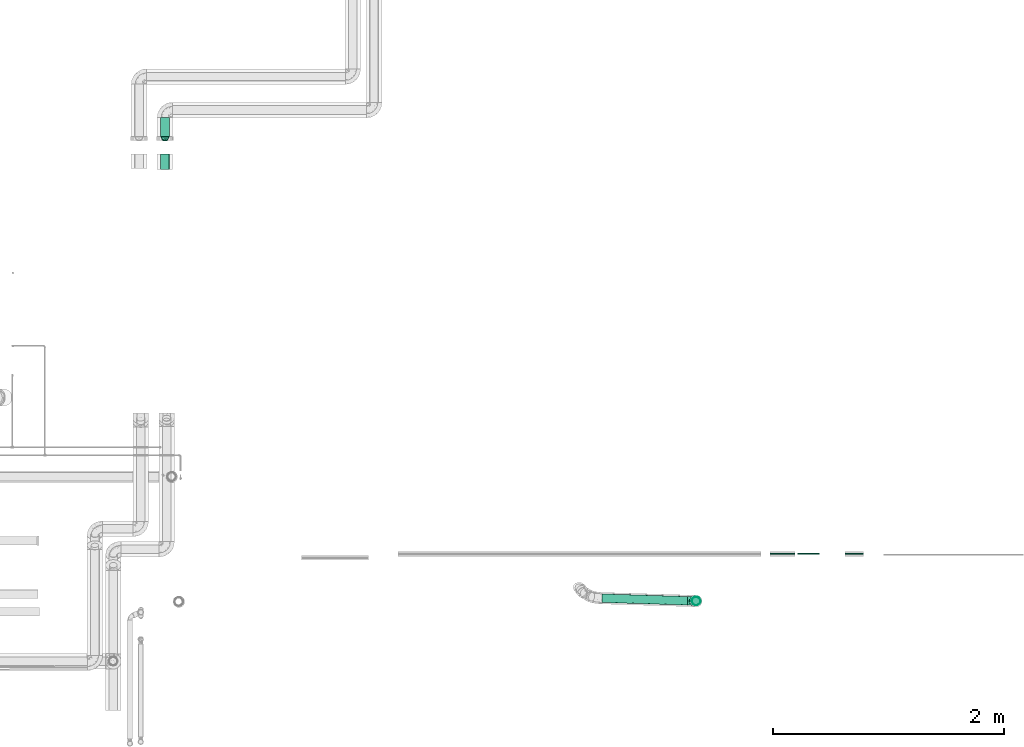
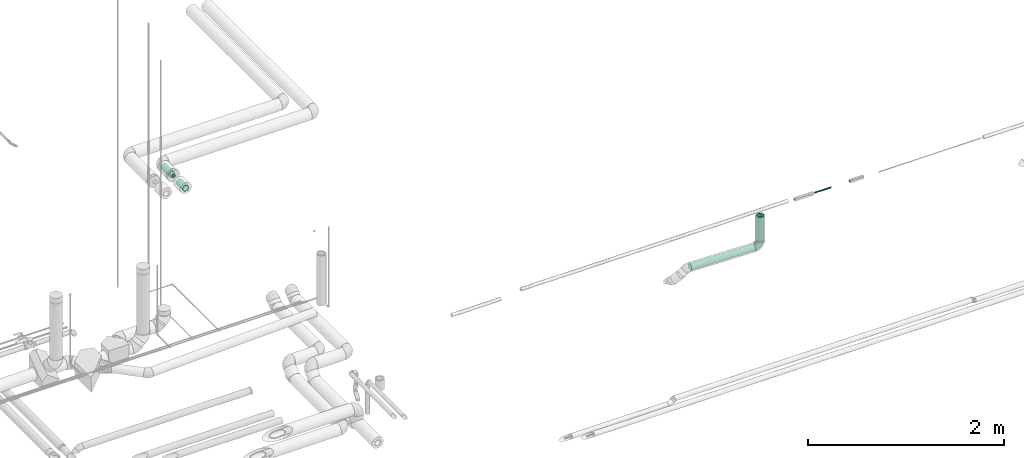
# One storey, part 71 of 156: 7 flow segments, 2 flow fittings.
"""IFC2X3 building model written with IfcOpenShell, lengths in millimetres."""

from ifc_helpers import new_model, entity, si_unit, converted_unit, derived_unit, direction, frame, origin_with_axes, origin_2d_with_axis, place, context, subcontext, project, spatial, hollow_circle, extrude, open_shell, surface_model, source, transform, mapped, type_object, element, save


model = new_model("IFC2X3")

# Units and contexts
model_context = context("Model", 3, precision=0.01, world=frame((0.0, 4.29681676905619e-09, 0.0)), true_north=direction((4.01073788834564e-13, 1.0)))
plan_context = context("Plan", 3, precision=0.01, world=frame((0.0, 4.29681676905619e-09, 0.0)), true_north=direction((4.01073788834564e-13, 1.0)))
body_context = subcontext(model_context, "Body", "Model", "MODEL_VIEW")
ifc_project = project(units=[converted_unit("PLANEANGLEUNIT", "DEGREE", entity("IfcPositiveLengthMeasure", 0.0174532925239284), si_unit("PLANEANGLEUNIT", "RADIAN"), dimensions=[0, 0, 0, 0, 0, 0, 0]), si_unit("AREAUNIT", "SQUARE_METRE"), si_unit("LENGTHUNIT", "METRE", prefix="MILLI"), si_unit("MASSUNIT", "GRAM", prefix="KILO"), si_unit("POWERUNIT", "WATT"), si_unit("PRESSUREUNIT", "PASCAL", prefix="KILO"), si_unit("FORCEUNIT", "NEWTON", prefix="KILO"), si_unit("ELECTRICVOLTAGEUNIT", "VOLT"), si_unit("ELECTRICCURRENTUNIT", "AMPERE"), si_unit("THERMODYNAMICTEMPERATUREUNIT", "DEGREE_CELSIUS"), si_unit("TIMEUNIT", "SECOND"), si_unit("VOLUMEUNIT", "CUBIC_METRE"), derived_unit("LINEARVELOCITYUNIT", [(si_unit("LENGTHUNIT", "METRE"), 1), (si_unit("TIMEUNIT", "SECOND"), -1)]), derived_unit("VOLUMETRICFLOWRATEUNIT", [(si_unit("VOLUMEUNIT", "CUBIC_METRE"), 1), (si_unit("TIMEUNIT", "SECOND"), -1)]), derived_unit("THERMALTRANSMITTANCEUNIT", [(si_unit("POWERUNIT", "WATT"), 1), (si_unit("THERMODYNAMICTEMPERATUREUNIT", "KELVIN"), -1), (si_unit("AREAUNIT", "SQUARE_METRE"), -1)]), derived_unit("SOUNDPRESSUREUNIT", [(si_unit("PRESSUREUNIT", "PASCAL"), 1)])], contexts=[model_context, plan_context])

# Site, building, storey
site_placement = place(None, frame((0.0, -4.29681676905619e-09, 0.0), z_axis=(0.0, 0.0, 1.0), x_axis=(1.0, 0.0, 0.0)))
site = spatial("IfcSite", under=ifc_project, at=site_placement, CompositionType="ELEMENT")
building_placement = place(site_placement, frame((0.0, 4.29681676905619e-09, 0.0), z_axis=(0.0, 0.0, 1.0), x_axis=(1.0, 0.0, 0.0)))
building = spatial("IfcBuilding", under=site, at=building_placement, Name="mc-building", CompositionType="ELEMENT")
storey_placement = place(building_placement, frame((0.0, 0.0, 205200.0), z_axis=(0.0, 0.0, 1.0), x_axis=(1.0, 0.0, 0.0)))
storey = spatial("IfcBuildingStorey", under=building, at=storey_placement, Name="Nivå D + 1,2 m", CompositionType="ELEMENT", Elevation=205200.0)

# Flow fittings
pipe_fitting_type_1 = type_object("IfcPipeFittingType", Name="magi_pipe_elbow_short_001", PredefinedType="BEND")
shared_shape_1 = source(origin_with_axes(), body_context, "Body", "SurfaceModel", [
    surface_model("IfcShellBasedSurfaceModel", [(-75.0, 18.75, -32.47595), (-75.0, 9.70571, -36.22222), (-75.0, 0.0, -37.5), (-75.0, 26.5165, -26.5165), (-75.0, 36.22222, -9.70571), (-75.0, 32.47595, -18.75), (-75.0, -26.5165, -26.5165), (-75.0, -32.47595, -18.75), (-75.0, -18.75, -32.47595), (-75.0, -9.70571, -36.22222), (-75.0, -36.22222, -9.70571), (-75.0, -37.5, 0.0), (-75.0, -36.22222, 9.70571), (-75.0, 32.47595, 18.75), (-75.0, 36.22222, 9.70571), (-75.0, 26.5165, 26.5165), (-75.0, 9.70571, 36.22222), (-75.0, 18.75, 32.47595), (-75.0, -32.47595, 18.75), (-75.0, -26.5165, 26.5165), (-75.0, -18.75, 32.47595), (-75.0, -9.70571, 36.22222), (-75.0, 0.0, 37.5), (-75.0, 37.5, 0.0), (0.0, 75.0, -37.5), (-9.70571, 75.0, -36.22222), (-18.75, 75.0, -32.47595), (-26.5165, 75.0, -26.5165), (-37.5, 75.0, 0.0), (-32.47595, 75.0, -18.75), (26.5165, 75.0, -26.5165), (32.47595, 75.0, -18.75), (9.70571, 75.0, -36.22222), (18.75, 75.0, -32.47595), (37.5, 75.0, 0.0), (36.22222, 75.0, -9.70571), (36.22222, 75.0, 9.70571), (-36.22222, 75.0, -9.70571), (-36.22222, 75.0, 9.70571), (-26.5165, 75.0, 26.5165), (-32.47595, 75.0, 18.75), (-18.75, 75.0, 32.47595), (-9.70571, 75.0, 36.22222), (26.5165, 75.0, 26.5165), (32.47595, 75.0, 18.75), (18.75, 75.0, 32.47595), (0.0, 75.0, 37.5), (9.70571, 75.0, 36.22222), (-50.66195, -32.88873, 11.78572), (-54.99922, -29.13125, 21.04995), (-40.23559, -31.99386, 0.0), (-56.55691, -34.5789, 0.0), (-9.60325, -12.95098, 14.46051), (-2.61009, -10.01741, 7.88638), (2.16617, -2.16616, 15.53807), (-57.288, -4.96773, 36.85866), (-52.51217, 5.74824, 37.43608), (12.81037, 9.15765, 14.08651), (22.89928, 30.51548, 18.6525), (8.7824, 13.60594, 23.93416), (-37.33476, -0.33653, 36.347), (-54.85586, -14.14869, 33.72555), (-29.12471, -8.85823, 31.34411), (-48.10461, -21.423, 27.85772), (-33.59975, -28.74209, 7.71494), (-24.55487, -24.00414, 0.0), (-13.60594, -8.7824, 23.93416), (-6.69857, 6.69857, 30.65943), (-36.65649, 59.85204, 16.29881), (-31.32632, 58.38324, 24.63625), (-13.99807, 64.68502, 35.12545), (-5.13953, 56.09471, 37.40789), (-57.80652, 14.70733, 35.42412), (-9.78855, 25.11652, 36.82116), (-18.63299, 6.87945, 35.01744), (-3.83097, 20.26022, 34.46205), (-64.87994, 22.70936, 30.5559), (-13.033, 36.87746, 37.43272), (-27.77679, 27.77679, 36.58883), (-22.32941, 16.38719, 37.30683), (-59.28624, 39.94303, 8.24496), (-59.87067, 36.65042, 16.29631), (-46.56121, 46.56121, 14.01781), (-58.62128, 31.26084, 24.61005), (21.423, 48.10461, 27.85772), (-38.8913, 49.70952, 21.22461), (14.14869, 54.85586, 33.72555), (29.13125, 54.99922, 21.04995), (32.88873, 50.66195, 11.78572), (-8.87416, -16.01441, 0.0), (-18.2094, -20.62738, 9.716), (4.96773, 57.288, 36.85866), (-41.2078, 16.06301, 36.82891), (-36.79737, 9.18911, 37.484), (24.00414, 24.55487, 0.0), (28.74209, 33.59975, 7.71494), (20.62738, 18.2094, 9.716), (34.5789, 56.5569, 0.0), (-39.86686, 25.44473, 34.6853), (-30.51548, -22.89929, 18.6525), (-27.18733, 48.46895, 31.51768), (-22.90983, 62.88141, 30.71147), (-39.47351, 60.49606, 8.04494), (-46.99814, 49.18552, 6.59975), (17.2765, 30.20783, 25.41576), (8.85823, 29.12471, 31.34411), (-42.52405, 56.25, 0.0), (-34.71543, 39.60057, 30.81378), (-51.63921, 25.45565, 31.57887), (-0.57315, 0.57314, 22.15528), (-21.39907, 38.81887, 36.04898), (-29.87575, 36.30561, 34.12075), (-16.21806, 50.81342, 35.71351), (-39.52887, 41.87958, 26.56295), (-48.16312, 40.29427, 20.91087), (0.33653, 37.33476, 36.347), (-30.0679, -16.43719, 26.14736), (10.22617, 2.72351, 7.47716), (31.99386, 40.23559, 0.0), (16.01441, 8.87416, 0.0), (-56.25, 42.52405, 0.0), (3.57013, -3.57013, 0.0), (-55.29924, 32.29556, -24.97819), (-59.83636, 36.66159, -16.30091), (-30.63566, -9.46389, -31.46168), (-32.56288, -0.46777, -35.66689), (-15.06702, -0.62752, -30.72736), (-59.36538, 4.74163, -37.37795), (-54.70677, -33.57101, -12.22532), (-47.11778, -27.80921, -20.31132), (-35.78225, -28.12088, -12.58113), (-54.55876, 15.30781, -35.56016), (-41.31209, 8.8649, -37.4919), (-32.29557, 55.29924, -24.97819), (-60.70982, 39.34858, -8.20557), (-23.53711, 58.87183, -31.02168), (-15.30781, 54.55876, -35.56016), (-47.71661, 47.71661, -8.95342), (22.40392, 54.25272, -28.31307), (12.94164, 47.49005, -33.35163), (14.78364, 63.33368, -34.12928), (-7.30605, -13.19114, -9.87585), (-7.41233, -9.72412, -17.08835), (4.03435, -3.18292, -9.89479), (-21.88198, 20.2773, -37.47871), (-35.54999, 22.18897, -36.38385), (-58.87183, 23.53711, -31.02168), (-63.13479, -29.8521, -21.78761), (-36.48245, 42.59931, -28.24512), (-34.65769, 34.65768, -32.92632), (-45.83467, 31.6775, -29.79181), (3.27021, -0.68924, -16.07244), (-54.25272, -22.40392, -28.31307), (27.80921, 47.11778, -20.31132), (33.57101, 54.70677, -12.22532), (28.12088, 35.78224, -12.58113), (-63.33368, -14.78364, -34.12928), (4.72829, 55.2495, -36.81435), (-23.70708, -18.25272, -20.4572), (-27.99946, -15.29719, -26.23299), (-13.59403, -9.26621, -23.44624), (-40.92572, -17.1227, -29.44432), (-47.49005, -12.94164, -33.35163), (-55.2495, -4.72829, -36.81435), (-28.10029, 46.13387, -31.76622), (-39.34858, 60.70982, -8.20557), (-4.74163, 59.36537, -37.37795), (-13.2384, 13.2384, -35.41008), (0.46777, 32.56288, -35.66689), (1.57868, 17.61531, -31.27328), (-36.6616, 59.83635, -16.30091), (-45.03866, 45.03866, -18.48368), (29.8521, 63.13479, -21.78761), (21.73246, 30.12864, -20.13951), (12.08848, 14.21656, -20.79992), (15.29719, 27.99946, -26.23299), (7.75053, 32.01418, -32.75993), (-8.8649, 41.31209, -37.4919), (-45.59181, 24.13361, -33.799), (-22.36035, 36.49252, -36.20246), (-0.35549, 0.35549, -21.72869), (-17.3698, -20.96637, -6.45086), (19.22892, 18.63119, -13.96617), (20.96637, 17.3698, -6.45086), (4.41782, 11.43015, -26.30466), (-18.63119, -19.22892, -13.96617)], [open_shell([[[0, 1, 2]], [[3, 0, 2]], [[4, 5, 3]], [[6, 3, 2]], [[4, 3, 7]], [[8, 6, 9]], [[6, 2, 9]], [[10, 11, 7]], [[3, 6, 7]], [[7, 11, 12]], [[12, 4, 7]], [[13, 14, 15]], [[16, 17, 15]], [[18, 19, 12]], [[20, 12, 19]], [[21, 22, 20]], [[12, 20, 22]], [[4, 12, 23]], [[24, 25, 26]], [[24, 26, 27]], [[28, 27, 29]], [[24, 27, 30]], [[28, 31, 27]], [[32, 30, 33]], [[32, 24, 30]], [[31, 34, 35]], [[31, 30, 27]], [[36, 34, 31]], [[37, 28, 29]], [[38, 36, 28]], [[39, 38, 40]], [[39, 41, 42]], [[38, 39, 36]], [[42, 36, 39]], [[36, 43, 44]], [[43, 36, 45]], [[45, 46, 47]], [[46, 45, 36]], [[36, 42, 46]], [[28, 36, 31]], [[48, 49, 18]], [[50, 48, 51]], [[52, 53, 54]], [[12, 48, 18]], [[12, 51, 48]], [[22, 55, 56]], [[18, 49, 19]], [[57, 58, 59]], [[60, 61, 62]], [[63, 20, 19]], [[63, 61, 20]], [[64, 50, 65]], [[62, 66, 67]], [[40, 68, 69]], [[42, 70, 71]], [[16, 72, 17]], [[73, 74, 75]], [[17, 76, 15]], [[21, 55, 22]], [[77, 78, 79]], [[80, 81, 82]], [[13, 83, 81]], [[84, 43, 45]], [[23, 14, 80]], [[14, 13, 81]], [[68, 85, 69]], [[83, 13, 15]], [[22, 56, 16]], [[45, 86, 84]], [[15, 76, 83]], [[87, 58, 88]], [[40, 38, 68]], [[89, 90, 65]], [[46, 91, 47]], [[65, 90, 64]], [[46, 42, 71]], [[92, 93, 79]], [[88, 36, 44]], [[44, 43, 87]], [[87, 88, 44]], [[94, 95, 96]], [[88, 97, 36]], [[98, 72, 92]], [[49, 99, 63]], [[69, 100, 101]], [[82, 102, 103]], [[104, 105, 59]], [[106, 102, 28]], [[98, 107, 108]], [[102, 82, 68]], [[86, 45, 47]], [[69, 39, 40]], [[109, 54, 57]], [[110, 100, 111]], [[20, 61, 21]], [[101, 41, 39]], [[70, 42, 41]], [[112, 77, 71]], [[84, 86, 105]], [[96, 95, 58]], [[100, 69, 113]], [[72, 16, 56]], [[108, 113, 83]], [[81, 114, 82]], [[112, 110, 77]], [[91, 71, 115]], [[62, 61, 63]], [[55, 61, 60]], [[116, 99, 66]], [[74, 62, 67]], [[91, 86, 47]], [[105, 86, 115]], [[75, 105, 115]], [[109, 67, 66]], [[59, 105, 67]], [[48, 64, 99]], [[99, 49, 48]], [[63, 19, 49]], [[43, 84, 87]], [[58, 87, 84]], [[92, 72, 56]], [[76, 72, 108]], [[102, 68, 38]], [[82, 114, 85]], [[98, 111, 107]], [[112, 70, 101]], [[114, 83, 113]], [[82, 103, 80]], [[92, 79, 78]], [[115, 71, 77]], [[74, 79, 60]], [[77, 79, 73]], [[71, 91, 46]], [[86, 91, 115]], [[61, 55, 21]], [[56, 55, 60]], [[57, 54, 117]], [[104, 59, 58]], [[116, 66, 62]], [[52, 99, 90]], [[12, 11, 51]], [[97, 88, 118]], [[97, 34, 36]], [[53, 90, 89]], [[90, 53, 52]], [[94, 96, 119]], [[88, 95, 118]], [[117, 54, 53]], [[92, 56, 93]], [[98, 92, 78]], [[111, 98, 78]], [[72, 98, 108]], [[110, 111, 78]], [[107, 111, 100]], [[28, 102, 38]], [[102, 106, 103]], [[106, 120, 103]], [[103, 120, 80]], [[23, 80, 120]], [[14, 81, 80]], [[56, 60, 93]], [[60, 79, 93]], [[117, 121, 119]], [[121, 117, 53]], [[53, 89, 121]], [[119, 96, 117]], [[117, 96, 57]], [[77, 110, 78]], [[100, 110, 112]], [[83, 114, 81]], [[85, 114, 113]], [[69, 85, 113]], [[82, 85, 68]], [[109, 52, 54]], [[99, 52, 66]], [[69, 101, 39]], [[112, 101, 100]], [[100, 113, 107]], [[108, 107, 113]], [[62, 74, 60]], [[75, 74, 67]], [[105, 75, 67]], [[73, 75, 115]], [[77, 73, 115]], [[74, 73, 79]], [[99, 64, 90]], [[50, 64, 48]], [[118, 95, 94]], [[58, 95, 88]], [[58, 57, 96]], [[109, 57, 59]], [[72, 76, 17]], [[83, 76, 108]], [[101, 70, 41]], [[71, 70, 112]], [[58, 84, 104]], [[105, 104, 84]], [[67, 109, 59]], [[52, 109, 66]], [[62, 63, 116]], [[99, 116, 63]], [[122, 5, 123]], [[124, 125, 126]], [[2, 1, 127]], [[128, 129, 130]], [[127, 131, 132]], [[29, 27, 133]], [[120, 134, 23]], [[135, 26, 136]], [[123, 134, 137]], [[138, 139, 140]], [[122, 3, 5]], [[141, 142, 143]], [[144, 132, 145]], [[131, 0, 146]], [[128, 7, 147]], [[148, 149, 150]], [[128, 51, 10]], [[142, 151, 143]], [[152, 6, 8]], [[153, 154, 155]], [[156, 152, 8]], [[32, 157, 24]], [[158, 159, 160]], [[147, 7, 6]], [[129, 152, 161]], [[156, 8, 9]], [[162, 163, 125]], [[154, 31, 35]], [[120, 106, 137]], [[149, 148, 164]], [[28, 37, 165]], [[163, 9, 2]], [[5, 4, 123]], [[25, 166, 136]], [[167, 168, 169]], [[170, 133, 171]], [[25, 24, 166]], [[33, 30, 138]], [[157, 32, 140]], [[37, 29, 170]], [[30, 31, 172]], [[26, 135, 27]], [[132, 131, 145]], [[32, 33, 140]], [[173, 174, 175]], [[169, 168, 176]], [[25, 136, 26]], [[175, 138, 173]], [[168, 177, 157]], [[163, 162, 156]], [[153, 172, 154]], [[7, 128, 10]], [[154, 97, 118]], [[131, 178, 145]], [[0, 3, 146]], [[175, 139, 138]], [[155, 118, 94]], [[131, 1, 0]], [[146, 178, 131]], [[170, 137, 165]], [[149, 179, 145]], [[171, 133, 148]], [[160, 180, 142]], [[65, 181, 89]], [[170, 165, 37]], [[137, 171, 123]], [[172, 138, 30]], [[138, 153, 173]], [[168, 157, 139]], [[166, 157, 177]], [[176, 175, 169]], [[168, 167, 144]], [[154, 35, 97]], [[155, 182, 173]], [[162, 124, 161]], [[147, 152, 129]], [[127, 163, 2]], [[132, 144, 125]], [[132, 125, 163]], [[125, 167, 126]], [[129, 158, 130]], [[35, 34, 97]], [[143, 182, 183]], [[169, 126, 167]], [[3, 122, 146]], [[178, 150, 149]], [[136, 179, 164]], [[133, 27, 135]], [[123, 4, 134]], [[122, 123, 171]], [[133, 170, 29]], [[137, 170, 171]], [[184, 175, 174]], [[180, 160, 126]], [[126, 169, 184]], [[126, 159, 124]], [[51, 128, 50]], [[51, 11, 10]], [[131, 127, 1]], [[163, 127, 132]], [[157, 166, 24]], [[136, 166, 177]], [[164, 179, 149]], [[144, 167, 125]], [[179, 144, 145]], [[168, 144, 177]], [[136, 177, 179]], [[144, 179, 177]], [[141, 121, 89]], [[89, 181, 141]], [[154, 118, 155]], [[183, 155, 94]], [[143, 183, 119]], [[119, 183, 94]], [[155, 183, 182]], [[181, 130, 185]], [[50, 128, 130]], [[130, 181, 65]], [[50, 130, 65]], [[141, 181, 185]], [[142, 141, 185]], [[143, 121, 141]], [[158, 160, 142]], [[142, 180, 151]], [[158, 142, 185]], [[126, 160, 159]], [[130, 158, 185]], [[129, 159, 158]], [[23, 134, 4]], [[120, 137, 134]], [[137, 106, 165]], [[28, 165, 106]], [[174, 151, 180]], [[182, 143, 151]], [[150, 146, 122]], [[149, 145, 178]], [[146, 150, 178]], [[122, 171, 148]], [[148, 150, 122]], [[164, 133, 135]], [[133, 164, 148]], [[164, 135, 136]], [[138, 140, 33]], [[157, 140, 139]], [[154, 172, 31]], [[138, 172, 153]], [[163, 156, 9]], [[152, 156, 162]], [[152, 147, 6]], [[128, 147, 129]], [[155, 173, 153]], [[174, 173, 182]], [[151, 174, 182]], [[174, 180, 184]], [[126, 184, 180]], [[175, 184, 169]], [[168, 139, 176]], [[175, 176, 139]], [[161, 124, 159]], [[125, 124, 162]], [[129, 161, 159]], [[162, 161, 152]], [[143, 119, 121]], [[14, 23, 15]], [[23, 16, 15]], [[22, 16, 23]], [[22, 23, 12]]])]),
])
flow_fitting_1_placement = place(storey_placement, frame((334915.24567, 461048.55858, 4166.76394), z_axis=(0.030661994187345, 0.999529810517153, 0.0), x_axis=(0.0, 0.0, -1.0)))
element("IfcFlowFitting", 1, at=flow_fitting_1_placement, inside=storey, type_object=pipe_fitting_type_1, Name="magi_pipe_elbow_short_001", context=body_context, shape_type="MappedRepresentation", body=[
    mapped(shared_shape_1, transform((0.0, 0.0, 0.0), scale=1.0)),
])
pipe_fitting_type_2 = type_object("IfcPipeFittingType", Name="magi_pipe_fe_reducer_centric_short_001", PredefinedType="TRANSITION")
shared_shape_2 = source(origin_with_axes(), body_context, "Body", "SurfaceModel", [
    surface_model("IfcShellBasedSurfaceModel", [(33.8, -38.1, 0.0), (33.8, 0.0, 38.1), (33.8, -19.05, 32.99557), (-2.0, -10.6, -18.35974), (-2.0, 0.0, -21.2), (-2.0, -5.48696, -20.47763), (-2.0, 0.0, 21.2), (-2.0, 5.48696, 20.47763), (-2.0, 10.6, 18.35974), (-2.0, 14.99066, 14.99066), (-2.0, 18.35974, 10.6), (-2.0, 20.47763, 5.48696), (-2.0, -5.48696, 20.47763), (-2.0, -14.99066, 14.99066), (-2.0, -10.6, 18.35974), (-2.0, -18.35974, 10.6), (-2.0, -21.2, 0.0), (-2.0, -20.47763, 5.48696), (-2.0, 14.99066, -14.99066), (-2.0, 20.47763, -5.48696), (-2.0, 18.35974, -10.6), (-2.0, 10.6, -18.35974), (-2.0, 21.2, 0.0), (0.0, 10.6, -18.35974), (0.0, 0.0, -21.2), (0.0, 5.48696, -20.47763), (0.0, 20.47763, -5.48696), (0.0, 14.99066, -14.99066), (0.0, 18.35974, -10.6), (0.0, -10.6, -18.35974), (0.0, -5.48696, -20.47763), (0.0, -18.35974, -10.6), (0.0, -21.2, 0.0), (0.0, -20.47763, -5.48696), (0.0, 20.47763, 5.48696), (0.0, 18.35974, 10.6), (0.0, 14.99066, 14.99066), (0.0, 10.6, 18.35974), (0.0, 5.48696, 20.47763), (0.0, 0.0, 21.2), (0.0, -18.35974, 10.6), (0.0, -20.47763, 5.48696), (0.0, -14.99066, 14.99066), (0.0, -5.48696, 20.47763), (0.0, -10.6, 18.35974), (-2.0, -20.47763, -5.48696), (-2.0, -18.35974, -10.6), (-2.0, -14.99066, -14.99066), (0.0, -14.99066, -14.99066), (-2.0, 5.48696, -20.47763), (0.0, 21.2, 0.0), (0.0, -6.55116, 20.1624), (0.0, -17.15116, -12.46105), (0.0, -17.15116, 12.46105), (0.0, 6.55116, 20.1624), (0.0, 17.15116, 12.46105), (0.0, 17.15116, -12.46105), (0.0, 6.55116, -20.1624), (35.8, 19.05, -32.99557), (35.8, -19.05, -32.99557), (35.8, 9.86101, -36.80177), (35.8, 36.80177, -9.86101), (35.8, 26.94077, -26.94077), (35.8, -38.1, 0.0), (35.8, 32.99557, -19.05), (35.8, 0.0, -38.1), (35.8, -9.86101, -36.80177), (35.8, -26.94077, -26.94077), (35.8, -32.99557, -19.05), (35.8, -36.80177, -9.86101), (35.8, 38.1, 0.0), (35.8, 36.80177, 9.86101), (35.8, 32.99557, 19.05), (35.8, 26.94077, 26.94077), (35.8, 19.05, 32.99557), (35.8, 9.86101, 36.80177), (35.8, 0.0, 38.1), (35.8, -32.99557, 19.05), (35.8, -36.80177, 9.86101), (35.8, -9.86101, 36.80177), (35.8, -19.05, 32.99557), (35.8, -26.94077, 26.94077), (33.8, 9.86101, 36.80177), (33.8, 26.94077, 26.94077), (33.8, 19.05, 32.99557), (33.8, 32.99557, 19.05), (33.8, 36.80177, 9.86101), (33.8, -9.86101, 36.80177), (33.8, -26.94077, 26.94077), (33.8, -32.99557, 19.05), (33.8, -36.80177, 9.86101), (33.8, 36.80177, -9.86101), (33.8, -32.99557, -19.05), (33.8, 9.86101, -36.80177), (33.8, 32.99557, -19.05), (33.8, 26.94077, -26.94077), (33.8, 19.05, -32.99557), (33.8, -26.94077, -26.94077), (33.8, -36.80177, -9.86101), (33.8, -19.05, -32.99557), (33.8, 0.0, -38.1), (33.8, -9.86101, -36.80177), (33.8, 38.1, 0.0), (0.0, -6.55116, -20.1624), (33.8, -9.525, -35.54778), (33.8, 9.525, -35.54778), (0.0, 0.0, -20.1624), (0.0, -11.85116, -16.31172), (33.8, -26.02278, -26.02278), (0.0, -19.17558, -6.23052), (33.8, -35.95985, -7.98715), (0.0, 11.85116, -16.31172), (0.0, 19.17558, -6.23052), (33.8, 35.95985, -7.98715), (33.8, 26.02278, -26.02278), (33.8, 9.525, 35.54778), (33.8, -9.525, 35.54778), (0.0, 0.0, 20.1624), (0.0, 11.85116, 16.31172), (33.8, 26.02278, 26.02278), (0.0, 19.17558, 6.23052), (33.8, 35.95985, 7.98715), (0.0, -11.85116, 16.31172), (0.0, -19.17558, 6.23052), (33.8, -35.95985, 7.98715), (33.8, -26.02278, 26.02278)], [open_shell([[[0, 1, 2]], [[3, 4, 5]], [[6, 7, 8]], [[9, 10, 11]], [[12, 13, 14]], [[15, 16, 17]], [[18, 19, 20]], [[21, 19, 18]], [[19, 11, 22]], [[23, 24, 25]], [[26, 23, 27]], [[26, 27, 28]], [[24, 29, 30]], [[24, 23, 29]], [[31, 32, 33]], [[34, 35, 36]], [[37, 38, 39]], [[32, 40, 41]], [[42, 43, 44]], [[39, 43, 42]], [[45, 33, 16]], [[46, 31, 45]], [[29, 47, 3]], [[46, 47, 48]], [[30, 3, 5]], [[45, 31, 33]], [[33, 32, 16]], [[30, 29, 3]], [[48, 47, 29]], [[48, 31, 46]], [[24, 30, 5]], [[5, 4, 24]], [[49, 25, 4]], [[21, 23, 49]], [[28, 18, 20]], [[21, 18, 27]], [[26, 20, 19]], [[21, 27, 23]], [[23, 25, 49]], [[50, 26, 19]], [[28, 20, 26]], [[28, 27, 18]], [[22, 50, 19]], [[4, 25, 24]], [[11, 34, 22]], [[10, 35, 11]], [[37, 9, 8]], [[10, 9, 36]], [[38, 8, 7]], [[11, 35, 34]], [[34, 50, 22]], [[38, 37, 8]], [[36, 9, 37]], [[36, 35, 10]], [[39, 38, 7]], [[7, 6, 39]], [[12, 43, 6]], [[14, 44, 12]], [[40, 13, 15]], [[14, 13, 42]], [[41, 15, 17]], [[14, 42, 44]], [[44, 43, 12]], [[32, 41, 17]], [[40, 15, 41]], [[40, 42, 13]], [[16, 32, 17]], [[6, 43, 39]], [[12, 6, 8]], [[8, 9, 12]], [[9, 19, 13]], [[12, 9, 13]], [[16, 15, 13]], [[13, 21, 16]], [[19, 9, 11]], [[13, 19, 21]], [[16, 21, 45]], [[45, 21, 49]], [[46, 3, 47]], [[4, 46, 45]], [[4, 3, 46]], [[45, 49, 4]], [[29, 23, 26]], [[29, 26, 36]], [[29, 31, 48]], [[29, 32, 31]], [[26, 50, 34]], [[29, 36, 32]], [[32, 36, 37]], [[42, 37, 39]], [[40, 32, 42]], [[42, 32, 37]], [[36, 26, 34]], [[51, 52, 53]], [[54, 55, 50]], [[50, 52, 51]], [[53, 52, 32]], [[50, 51, 54]], [[50, 56, 57]], [[58, 59, 60]], [[61, 58, 62]], [[59, 58, 63]], [[61, 62, 64]], [[61, 63, 58]], [[65, 59, 66]], [[65, 60, 59]], [[67, 63, 68]], [[63, 67, 59]], [[63, 69, 68]], [[61, 70, 71]], [[71, 72, 73]], [[71, 73, 74]], [[74, 75, 76]], [[74, 76, 71]], [[76, 63, 61]], [[63, 77, 78]], [[77, 63, 79]], [[77, 80, 81]], [[80, 77, 79]], [[63, 76, 79]], [[76, 61, 71]], [[82, 0, 1]], [[83, 82, 84]], [[83, 85, 86]], [[83, 86, 82]], [[0, 82, 86]], [[87, 88, 2]], [[88, 87, 89]], [[89, 0, 90]], [[0, 89, 87]], [[87, 1, 0]], [[86, 91, 0]], [[92, 0, 91]], [[93, 91, 94]], [[95, 96, 93]], [[95, 93, 94]], [[92, 91, 93]], [[93, 97, 92]], [[98, 0, 92]], [[99, 100, 101]], [[99, 97, 93]], [[99, 93, 100]], [[86, 102, 91]], [[98, 69, 0]], [[92, 68, 98]], [[59, 97, 99]], [[92, 97, 67]], [[66, 99, 101]], [[98, 68, 69]], [[69, 63, 0]], [[66, 59, 99]], [[67, 97, 59]], [[67, 68, 92]], [[65, 66, 101]], [[101, 100, 65]], [[93, 60, 100]], [[96, 58, 93]], [[64, 95, 94]], [[96, 95, 62]], [[61, 94, 91]], [[96, 62, 58]], [[58, 60, 93]], [[70, 61, 91]], [[64, 94, 61]], [[64, 62, 95]], [[102, 70, 91]], [[100, 60, 65]], [[86, 71, 102]], [[85, 72, 86]], [[74, 83, 84]], [[85, 83, 73]], [[75, 84, 82]], [[86, 72, 71]], [[71, 70, 102]], [[75, 74, 84]], [[73, 83, 74]], [[73, 72, 85]], [[76, 75, 82]], [[82, 1, 76]], [[87, 79, 1]], [[2, 80, 87]], [[77, 88, 89]], [[2, 88, 81]], [[78, 89, 90]], [[2, 81, 80]], [[80, 79, 87]], [[63, 78, 90]], [[77, 89, 78]], [[77, 81, 88]], [[0, 63, 90]], [[1, 79, 76]], [[0, 84, 1]], [[84, 94, 85]], [[102, 85, 94]], [[2, 89, 0]], [[94, 0, 92]], [[100, 92, 99]], [[92, 96, 94]], [[96, 92, 100]], [[0, 94, 84]], [[52, 57, 103]], [[57, 52, 50]], [[104, 99, 103]], [[57, 105, 106]], [[107, 108, 52]], [[92, 109, 52]], [[110, 32, 109]], [[96, 57, 111]], [[92, 110, 109]], [[94, 112, 113]], [[108, 107, 99]], [[92, 52, 108]], [[113, 112, 50]], [[56, 94, 114]], [[32, 110, 0]], [[57, 96, 105]], [[107, 103, 99]], [[111, 56, 114]], [[56, 112, 94]], [[50, 102, 113]], [[96, 111, 114]], [[106, 105, 100]], [[104, 106, 100]], [[106, 104, 103]], [[115, 84, 54]], [[51, 116, 117]], [[118, 119, 55]], [[85, 120, 55]], [[121, 50, 120]], [[2, 51, 122]], [[85, 121, 120]], [[89, 123, 124]], [[119, 118, 84]], [[85, 55, 119]], [[124, 123, 32]], [[53, 89, 125]], [[50, 121, 102]], [[51, 2, 116]], [[118, 54, 84]], [[122, 53, 125]], [[53, 123, 89]], [[32, 0, 124]], [[2, 122, 125]], [[117, 116, 1]], [[115, 117, 1]], [[117, 115, 54]]])]),
])
flow_fitting_2_placement = place(storey_placement, frame((330305.51743, 465044.08332, 4222.99755), z_axis=(0.0, -0.000372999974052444, 0.999999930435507), x_axis=(1.99999986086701e-06, 0.999999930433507, 0.000372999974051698)))
element("IfcFlowFitting", 2, at=flow_fitting_2_placement, inside=storey, type_object=pipe_fitting_type_2, Name="magi_pipe_fe_reducer_centric_short_001", context=body_context, shape_type="MappedRepresentation", body=[
    mapped(shared_shape_2, transform((0.0, 0.0, 0.0), scale=1.0)),
])

# Flow segments
pipe_segment_type_1 = type_object("IfcPipeSegmentType", Name="MA", PredefinedType="RIGIDSEGMENT")
shared_shape_3 = source(origin_with_axes(), body_context, "Body", "SweptSolid", [
    extrude(hollow_circle(Radius=37.5, WallThickness=2.0, at=origin_2d_with_axis()), frame((0.0, 0.0, 0.0), z_axis=(1.0, 0.0, 0.0), x_axis=(0.0, 1.0, 0.0)), (0.0, 0.0, 1.0), 742.4),
])
flow_segment_1_placement = place(storey_placement, frame((334840.28916, 461051.12619, 4166.80840000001), z_axis=(0.00501699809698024, 0.163541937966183, -0.986523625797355), x_axis=(-0.999529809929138, 0.0306620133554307, -1.15626422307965e-07)))
element("IfcFlowSegment", 3, at=flow_segment_1_placement, inside=storey, type_object=pipe_segment_type_1, Name="MA", context=body_context, shape_type="MappedRepresentation", body=[
    mapped(shared_shape_3, transform((0.0, 0.0, 0.0), scale=1.0)),
])
shared_shape_4 = source(origin_with_axes(), body_context, "Body", "SweptSolid", [
    extrude(hollow_circle(Radius=37.5, WallThickness=2.0, at=origin_2d_with_axis()), frame((0.0, 0.0, 0.0), z_axis=(1.0, 0.0, 0.0), x_axis=(0.0, 1.0, 0.0)), (0.0, 0.0, 1.0), 300.6),
])
flow_segment_2_placement = place(storey_placement, frame((334915.24567, 461048.55858, 4542.40012000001), z_axis=(-0.999529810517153, 0.030661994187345, 0.0), x_axis=(0.0, 0.0, -1.0)))
element("IfcFlowSegment", 4, at=flow_segment_2_placement, inside=storey, type_object=pipe_segment_type_1, Name="MA", context=body_context, shape_type="MappedRepresentation", body=[
    mapped(shared_shape_4, transform((0.0, 0.0, 0.0), scale=1.0)),
])
pipe_segment_type_2 = type_object("IfcPipeSegmentType", Name="Stålrør normaltykke", PredefinedType="RIGIDSEGMENT")
shared_shape_5 = source(origin_with_axes(), body_context, "Body", "SweptSolid", [
    extrude(hollow_circle(Radius=38.0, WallThickness=2.0, at=origin_2d_with_axis()), frame((0.0, 0.0, 0.0), z_axis=(1.0, 0.0, 0.0), x_axis=(0.0, 1.0, 0.0)), (0.0, 0.0, 1.0), 166.1),
])
flow_segment_3_placement = place(storey_placement, frame((330305.51749, 465077.88331, 4223.01016000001), z_axis=(-1.0, 0.0, 0.0), x_axis=(0.0, 1.0, 0.0)))
element("IfcFlowSegment", 5, at=flow_segment_3_placement, inside=storey, type_object=pipe_segment_type_2, Name="Stålrør normaltykke", context=body_context, shape_type="MappedRepresentation", body=[
    mapped(shared_shape_5, transform((0.0, 0.0, 0.0), scale=1.0)),
])
pipe_segment_type_3 = type_object("IfcPipeSegmentType", Name="Kobberrør", PredefinedType="RIGIDSEGMENT")
shared_shape_6 = source(origin_with_axes(), body_context, "Body", "SweptSolid", [
    extrude(hollow_circle(Radius=6.0, WallThickness=2.0, at=origin_2d_with_axis()), frame((0.0, 0.0, 0.0), z_axis=(1.0, 0.0, 0.0), x_axis=(0.0, 1.0, 0.0)), (0.0, 0.0, 1.0), 191.2),
])
flow_segment_4_placement = place(storey_placement, frame((335793.95588, 461458.25941, 4266.92687), z_axis=(0.0, 0.0, 1.0), x_axis=(1.0, 0.0, 0.0)))
element("IfcFlowSegment", 6, at=flow_segment_4_placement, inside=storey, type_object=pipe_segment_type_3, Name="Kobberrør", context=body_context, shape_type="MappedRepresentation", body=[
    mapped(shared_shape_6, transform((0.0, 0.0, 0.0), scale=1.0)),
])
shared_shape_7 = source(origin_with_axes(), body_context, "Body", "SweptSolid", [
    extrude(hollow_circle(Radius=6.0, WallThickness=2.0, at=origin_2d_with_axis()), frame((0.0, 0.0, 0.0), z_axis=(1.0, 0.0, 0.0), x_axis=(0.0, 1.0, 0.0)), (0.0, 0.0, 1.0), 160.0),
])
flow_segment_5_placement = place(storey_placement, frame((336365.95588, 461458.25941, 4266.92687), z_axis=(0.0, 0.0, 1.0), x_axis=(-1.0, 0.0, 0.0)))
element("IfcFlowSegment", 7, at=flow_segment_5_placement, inside=storey, type_object=pipe_segment_type_3, Name="Kobberrør", context=body_context, shape_type="MappedRepresentation", body=[
    mapped(shared_shape_7, transform((0.0, 0.0, 0.0), scale=1.0)),
])
shared_shape_8 = source(origin_with_axes(), body_context, "Body", "SweptSolid", [
    extrude(hollow_circle(Radius=38.0, WallThickness=2.0, at=origin_2d_with_axis()), frame((0.0, 0.0, 0.0), z_axis=(1.0, 0.0, 0.0), x_axis=(0.0, 1.0, 0.0)), (0.0, 0.0, 1.0), 135.9),
])
flow_segment_6_placement = place(storey_placement, frame((330305.51687, 464793.39143, 4222.86663), z_axis=(0.0, -0.000372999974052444, 0.999999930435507), x_axis=(1.99999986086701e-06, 0.999999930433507, 0.000372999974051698)))
element("IfcFlowSegment", 8, at=flow_segment_6_placement, inside=storey, type_object=pipe_segment_type_2, Name="Stålrør normaltykke", context=body_context, shape_type="MappedRepresentation", body=[
    mapped(shared_shape_8, transform((0.0, 0.0, 0.0), scale=1.0)),
])
shared_shape_9 = source(origin_with_axes(), body_context, "Body", "SweptSolid", [
    extrude(hollow_circle(Radius=6.0, WallThickness=2.0, at=origin_2d_with_axis()), frame((0.0, 0.0, 0.0), z_axis=(1.0, 0.0, 0.0), x_axis=(0.0, 1.0, 0.0)), (0.0, 0.0, 1.0), 219.3),
])
flow_segment_7_placement = place(storey_placement, frame((335554.64133, 461458.25941, 4266.92687), z_axis=(0.0, 0.0, 1.0), x_axis=(1.0, 0.0, 0.0)))
element("IfcFlowSegment", 9, at=flow_segment_7_placement, inside=storey, type_object=pipe_segment_type_3, Name="Kobberrør", context=body_context, shape_type="MappedRepresentation", body=[
    mapped(shared_shape_9, transform((0.0, 0.0, 0.0), scale=1.0)),
])

save(model, "model.ifc")
